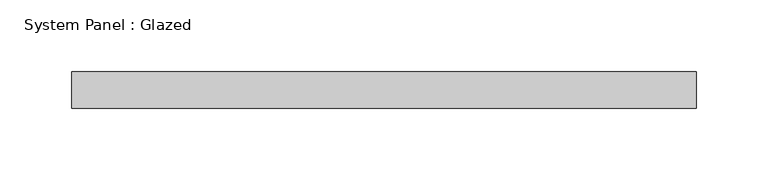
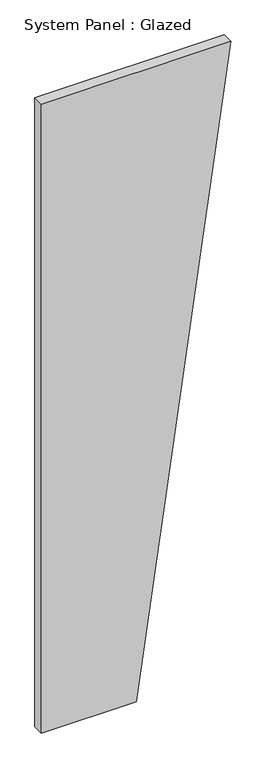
"""IFC4 building model written with IfcOpenShell, lengths in millimetres: plate geometry, System Panel : Glazed."""

from ifc_helpers import new_model, si_unit, frame, origin, place, context, project, spatial, polyline, outline, extrude, source, transform, mapped, element, save


def system_panel_glazed_300b4168(model_context):
    return source(origin(), model_context, "Body", "SweptSolid", [
        extrude(outline(polyline([(0.0, -217.0453551), (0.0, 0.0), (1524.0, 217.0453551), (1524.0, -217.0453551), (0.0, -217.0453551)])), frame((0.0, 19.05, 0.0), z_axis=(0.0, 1.0, 0.0), x_axis=(0.0, 0.0, 1.0)), (0.0, 0.0, 1.0), 25.4),
    ])


if __name__ == "__main__":
    model = new_model("IFC4")
    model_context = context("Model", 3, world=origin())
    ifc_project = project(units=[si_unit("LENGTHUNIT", "METRE", prefix="MILLI")], contexts=[model_context])
    site = spatial("IfcSite", under=ifc_project)
    building = spatial("IfcBuilding", under=site)
    placement = place(None, origin())
    system_panel_glazed_shape = system_panel_glazed_300b4168(model_context)
    element("IfcPlate", 1, ObjectType="System Panel : Glazed", at=placement, inside=building, context=model_context, shape_type="MappedRepresentation", body=[
        mapped(system_panel_glazed_shape, transform((0.0, 0.0, 0.0), x_axis=(1.0, 0.0, 0.0), y_axis=(0.0, 1.0, 0.0), z_axis=(0.0, 0.0, 1.0))),
    ])
    save(model, "model.ifc")
